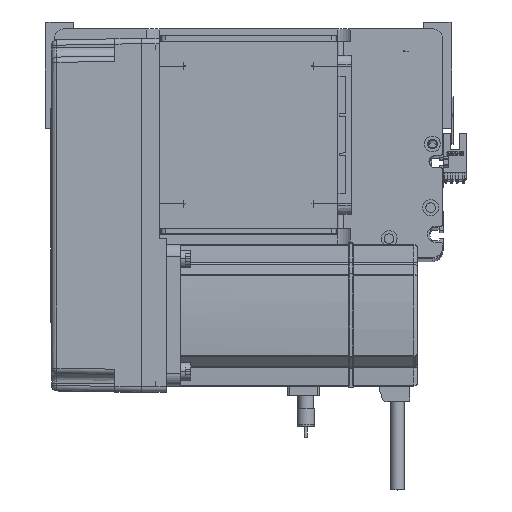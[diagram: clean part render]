
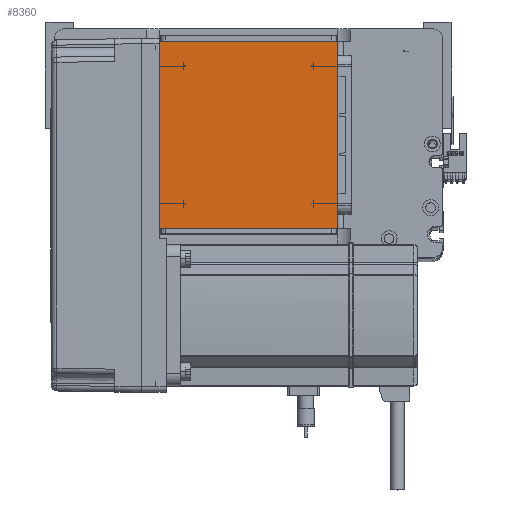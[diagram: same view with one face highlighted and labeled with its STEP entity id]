
A CAD part, top view. The second image highlights one B-rep face of the part: STEP entity #8360.
In plain terms, the highlighted planar face has unit normal (0, 0, 1).
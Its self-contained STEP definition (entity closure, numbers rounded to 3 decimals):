
#180 = FACE_OUTER_BOUND ( 'NONE', #51023, .T. ) ;
#3841 = CARTESIAN_POINT ( 'NONE',  ( -50.5, 122., 115. ) ) ;
#4498 = CARTESIAN_POINT ( 'NONE',  ( -50.5, 16., 115. ) ) ;
#8360 = ADVANCED_FACE ( 'NONE', ( #180 ), #45977, .T. ) ;
#11096 = CARTESIAN_POINT ( 'NONE',  ( 50.5, 122., 115. ) ) ;
#12958 = LINE ( 'NONE', #26759, #30950 ) ;
#14441 = DIRECTION ( 'NONE',  ( 1., 0., 0. ) ) ;
#14949 = DIRECTION ( 'NONE',  ( -1., 0., 0. ) ) ;
#15249 = DIRECTION ( 'NONE',  ( 0., -1., 0. ) ) ;
#15587 = CARTESIAN_POINT ( 'NONE',  ( -50.5, 122., 115. ) ) ;
#17695 = EDGE_CURVE ( 'NONE', #19966, #40273, #43362, .T. ) ;
#18379 = ORIENTED_EDGE ( 'NONE', *, *, #17695, .T. ) ;
#18548 = AXIS2_PLACEMENT_3D ( 'NONE', #34056, #38177, #14441 ) ;
#19966 = VERTEX_POINT ( 'NONE', #46326 ) ;
#22259 = CARTESIAN_POINT ( 'NONE',  ( 50.5, 122., 115. ) ) ;
#25068 = EDGE_CURVE ( 'NONE', #45460, #25903, #28641, .T. ) ;
#25149 = ORIENTED_EDGE ( 'NONE', *, *, #25068, .T. ) ;
#25903 = VERTEX_POINT ( 'NONE', #4498 ) ;
#26759 = CARTESIAN_POINT ( 'NONE',  ( -50.5, 122., 115. ) ) ;
#28641 = LINE ( 'NONE', #15587, #29868 ) ;
#29868 = VECTOR ( 'NONE', #15249, 1000. ) ;
#30950 = VECTOR ( 'NONE', #14949, 1000. ) ;
#31413 = DIRECTION ( 'NONE',  ( 0., 1., 0. ) ) ;
#32426 = LINE ( 'NONE', #40673, #49694 ) ;
#34056 = CARTESIAN_POINT ( 'NONE',  ( 0., 0., 115. ) ) ;
#35341 = VECTOR ( 'NONE', #31413, 1000. ) ;
#38177 = DIRECTION ( 'NONE',  ( 0., 0., 1. ) ) ;
#39005 = EDGE_CURVE ( 'NONE', #40273, #45460, #12958, .T. ) ;
#39109 = ORIENTED_EDGE ( 'NONE', *, *, #42958, .T. ) ;
#40273 = VERTEX_POINT ( 'NONE', #22259 ) ;
#40673 = CARTESIAN_POINT ( 'NONE',  ( -50.5, 16., 115. ) ) ;
#42958 = EDGE_CURVE ( 'NONE', #25903, #19966, #32426, .T. ) ;
#43362 = LINE ( 'NONE', #11096, #35341 ) ;
#45460 = VERTEX_POINT ( 'NONE', #3841 ) ;
#45977 = PLANE ( 'NONE',  #18548 ) ;
#46326 = CARTESIAN_POINT ( 'NONE',  ( 50.5, 16., 115. ) ) ;
#49131 = DIRECTION ( 'NONE',  ( 1., 0., 0. ) ) ;
#49694 = VECTOR ( 'NONE', #49131, 1000. ) ;
#50737 = ORIENTED_EDGE ( 'NONE', *, *, #39005, .T. ) ;
#51023 = EDGE_LOOP ( 'NONE', ( #25149, #39109, #18379, #50737 ) ) ;
